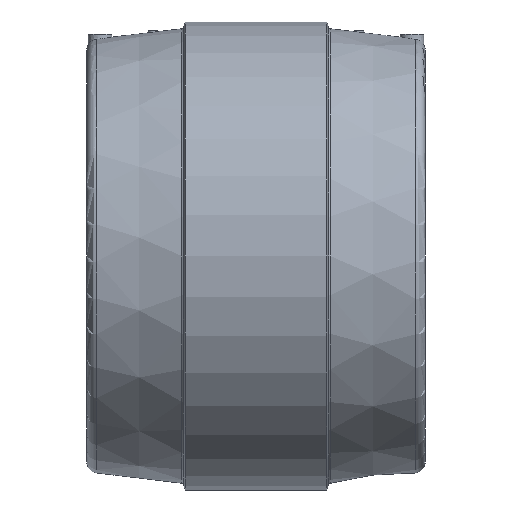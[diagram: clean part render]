
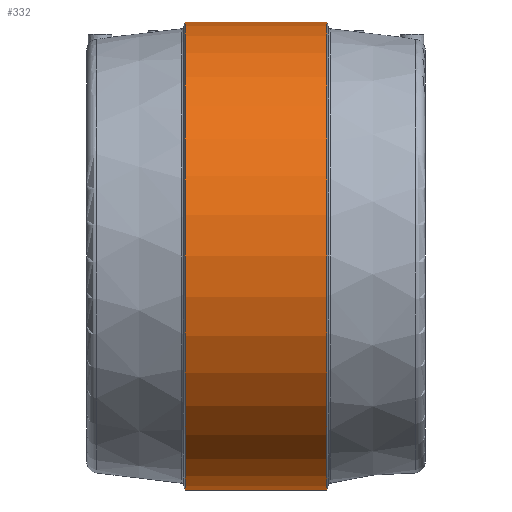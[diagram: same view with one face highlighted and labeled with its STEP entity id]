
A CAD part, front view. The second image highlights one B-rep face of the part: STEP entity #332.
In plain terms, the highlighted cylindrical face has radius 247.5 mm (diameter 495 mm), a full revolution.
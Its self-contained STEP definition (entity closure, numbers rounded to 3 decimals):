
#21=CYLINDRICAL_SURFACE('',#385,247.5);
#72=ORIENTED_EDGE('',*,*,#130,.F.);
#73=ORIENTED_EDGE('',*,*,#129,.T.);
#129=EDGE_CURVE('',#159,#159,#185,.T.);
#130=EDGE_CURVE('',#160,#160,#186,.T.);
#159=VERTEX_POINT('',#643);
#160=VERTEX_POINT('',#646);
#185=CIRCLE('',#384,247.5);
#186=CIRCLE('',#386,247.5);
#220=EDGE_LOOP('',(#72));
#221=EDGE_LOOP('',(#73));
#278=FACE_BOUND('',#220,.T.);
#279=FACE_BOUND('',#221,.T.);
#332=ADVANCED_FACE('',(#278,#279),#21,.T.);
#384=AXIS2_PLACEMENT_3D('',#642,#459,#460);
#385=AXIS2_PLACEMENT_3D('',#644,#461,#462);
#386=AXIS2_PLACEMENT_3D('',#645,#463,#464);
#459=DIRECTION('',(-1.,0.,0.));
#460=DIRECTION('',(0.,0.,1.));
#461=DIRECTION('',(-1.,0.,0.));
#462=DIRECTION('',(0.,0.,1.));
#463=DIRECTION('',(-1.,0.,0.));
#464=DIRECTION('',(0.,0.,1.));
#642=CARTESIAN_POINT('',(75.,0.,0.));
#643=CARTESIAN_POINT('',(75.,0.,247.5));
#644=CARTESIAN_POINT('',(-60.,0.,0.));
#645=CARTESIAN_POINT('',(-75.,0.,0.));
#646=CARTESIAN_POINT('',(-75.,0.,247.5));
